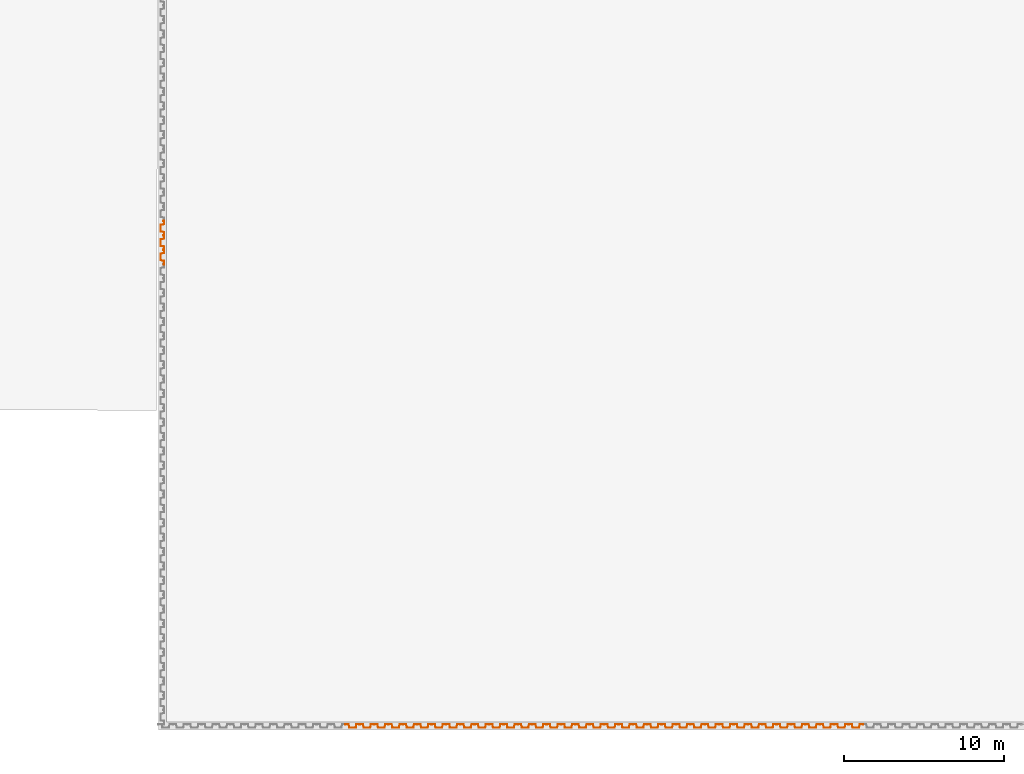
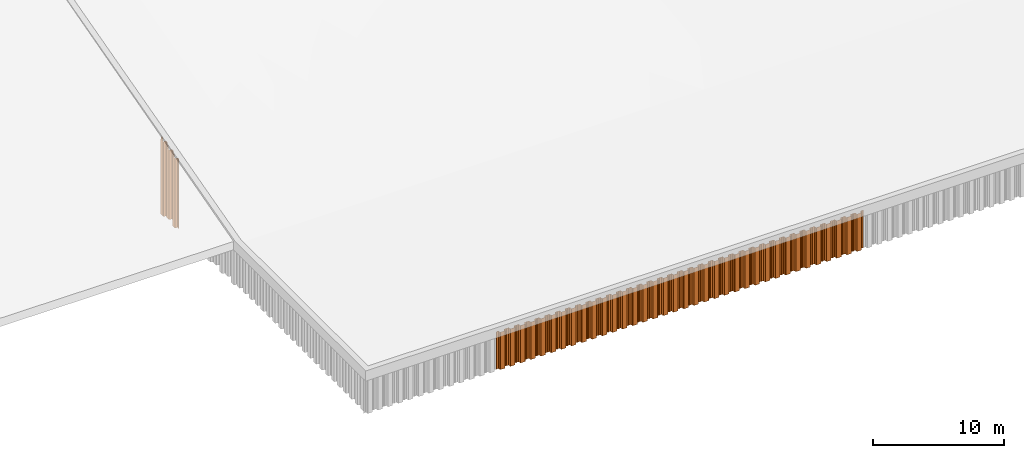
# One storey, part 6 of 32: 39 proxies.
"""IFC2X3 building model written with IfcOpenShell, lengths in millimetres."""

from ifc_helpers import new_model, entity, si_unit, converted_unit, derived_unit, direction, frame, frame_2d, origin, place, context, subcontext, project, spatial, polyline, circle_curve, parameter, trimmed, segment, composite_curve, outline, extrude, source, transform, mapped, type_object, type_shapes, element, save


model = new_model("IFC2X3")

# Units and contexts
model_context = context("Model", 3, precision=0.01, world=origin(), true_north=direction((6.12303176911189e-17, 1.0)))
body_context = subcontext(model_context, "Body", "Model", "MODEL_VIEW")
ifc_project = project(units=[si_unit("LENGTHUNIT", "METRE", prefix="MILLI"), si_unit("AREAUNIT", "SQUARE_METRE"), si_unit("VOLUMEUNIT", "CUBIC_METRE"), converted_unit("PLANEANGLEUNIT", "DEGREE", entity("IfcRatioMeasure", 0.0174532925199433), si_unit("PLANEANGLEUNIT", "RADIAN"), dimensions=[0, 0, 0, 0, 0, 0, 0]), si_unit("MASSUNIT", "GRAM", prefix="KILO"), derived_unit("MASSDENSITYUNIT", [(si_unit("MASSUNIT", "GRAM", prefix="KILO"), 1), (si_unit("LENGTHUNIT", "METRE"), -3)]), si_unit("TIMEUNIT", "SECOND"), si_unit("FREQUENCYUNIT", "HERTZ"), si_unit("THERMODYNAMICTEMPERATUREUNIT", "DEGREE_CELSIUS"), derived_unit("THERMALTRANSMITTANCEUNIT", [(si_unit("MASSUNIT", "GRAM", prefix="KILO"), 1), (si_unit("THERMODYNAMICTEMPERATUREUNIT", "KELVIN"), -1), (si_unit("TIMEUNIT", "SECOND"), -3)]), derived_unit("VOLUMETRICFLOWRATEUNIT", [(si_unit("LENGTHUNIT", "METRE"), 3), (si_unit("TIMEUNIT", "SECOND"), -1)]), si_unit("ELECTRICCURRENTUNIT", "AMPERE"), si_unit("ELECTRICVOLTAGEUNIT", "VOLT"), si_unit("POWERUNIT", "WATT"), si_unit("FORCEUNIT", "NEWTON", prefix="KILO"), si_unit("ILLUMINANCEUNIT", "LUX"), si_unit("LUMINOUSFLUXUNIT", "LUMEN"), si_unit("LUMINOUSINTENSITYUNIT", "CANDELA"), derived_unit("USERDEFINED", [(si_unit("MASSUNIT", "GRAM", prefix="KILO"), -1), (si_unit("LENGTHUNIT", "METRE"), -2), (si_unit("TIMEUNIT", "SECOND"), 3), (si_unit("LUMINOUSFLUXUNIT", "LUMEN"), 1)]), derived_unit("LINEARVELOCITYUNIT", [(si_unit("LENGTHUNIT", "METRE"), 1), (si_unit("TIMEUNIT", "SECOND"), -1)]), si_unit("PRESSUREUNIT", "PASCAL"), derived_unit("USERDEFINED", [(si_unit("LENGTHUNIT", "METRE"), -2), (si_unit("MASSUNIT", "GRAM", prefix="KILO"), 1), (si_unit("TIMEUNIT", "SECOND"), -2)])], contexts=[model_context])

# Site, building, storey
site_placement = place(None, origin())
site = spatial("IfcSite", under=ifc_project, at=site_placement, Name="Default", CompositionType="ELEMENT")
building_placement = place(site_placement, origin())
building = spatial("IfcBuilding", under=site, at=building_placement, CompositionType="ELEMENT")
storey_placement = place(building_placement, origin())
storey = spatial("IfcBuildingStorey", under=building, at=storey_placement, Name="矢板", CompositionType="ELEMENT", Elevation=0.0)

# Proxies
building_element_proxy_type_1 = type_object("IfcBuildingElementProxyType", Name="鋼矢板10H型", PredefinedType="NOTDEFINED")
shared_shape_1 = source(origin(), body_context, "Body", "SweptSolid", [
    extrude(outline(composite_curve([segment(trimmed(circle_curve(frame_2d((85.3662976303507, 306.644432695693), x_axis=(0.422618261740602, 0.906307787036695)), 13.885714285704), [parameter(24.9999999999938)], [parameter(90.0000000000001)], True, "PARAMETER"), True, "CONTINUOUS"), segment(polyline([(72.7815666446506, 312.512789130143), (9.8129512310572, 177.476157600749)]), True, "CONTINUOUS"), segment(trimmed(circle_curve(frame_2d((29.3891994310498, 168.347603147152), x_axis=(0.422618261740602, 0.906307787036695)), 21.6), [parameter(90.0000000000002)], [parameter(168.69006752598)], True, "PARAMETER"), True, "CONTINUOUS"), segment(polyline([(16.598697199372, 150.941769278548), (175.329723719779, 34.2998683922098)]), True, "CONTINUOUS"), segment(trimmed(circle_curve(frame_2d((168.93447260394, 25.596951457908), x_axis=(0.422618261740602, 0.906307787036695)), 10.7999999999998), [parameter(270.0)], [parameter(348.690067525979)], True, "PARAMETER"), False, "CONTINUOUS"), segment(polyline([(178.722596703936, 21.0326742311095), (18.2974003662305, -323.000269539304)]), True, "CONTINUOUS"), segment(trimmed(circle_curve(frame_2d((8.50927626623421, -318.435992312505), x_axis=(0.422618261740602, 0.906307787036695)), 10.8), [parameter(191.30993247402)], [parameter(269.999999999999)], True, "PARAMETER"), False, "CONTINUOUS"), segment(polyline([(5.95324328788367, -328.929166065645), (-185.429973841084, -282.310113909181)]), True, "CONTINUOUS"), segment(trimmed(circle_curve(frame_2d((-190.542039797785, -303.296461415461), x_axis=(0.422618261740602, 0.906307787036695)), 21.6000000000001), [parameter(11.3099324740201)], [parameter(90.0000000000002)], True, "PARAMETER"), True, "CONTINUOUS"), segment(polyline([(-210.118287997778, -294.167906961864), (-290.330886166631, -466.184378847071)]), True, "CONTINUOUS"), segment(trimmed(circle_curve(frame_2d((-270.754637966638, -475.312933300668), x_axis=(0.422618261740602, 0.906307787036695)), 21.6), [parameter(90.0000000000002)], [parameter(269.999999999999)], True, "PARAMETER"), True, "CONTINUOUS"), segment(polyline([(-251.178389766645, -484.441487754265), (-249.065298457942, -479.909948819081)]), True, "CONTINUOUS"), segment(polyline([(-249.065298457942, -479.909948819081), (-258.853422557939, -475.345671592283)]), True, "CONTINUOUS"), segment(polyline([(-258.853422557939, -475.345671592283), (-260.966513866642, -479.877210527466)]), True, "CONTINUOUS"), segment(trimmed(circle_curve(frame_2d((-270.754637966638, -475.312933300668), x_axis=(0.422618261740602, 0.906307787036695)), 10.8), [parameter(90.0000000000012)], [parameter(270.0)], True, "PARAMETER"), False, "CONTINUOUS"), segment(polyline([(-280.542762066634, -470.748656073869), (-200.330163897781, -298.732184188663)]), True, "CONTINUOUS"), segment(trimmed(circle_curve(frame_2d((-190.542039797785, -303.296461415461), x_axis=(0.422618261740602, 0.906307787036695)), 10.8), [parameter(11.3099324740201)], [parameter(89.9999999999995)], True, "PARAMETER"), False, "CONTINUOUS"), segment(polyline([(-187.986006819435, -292.803287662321), (3.39721030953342, -339.422339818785)]), True, "CONTINUOUS"), segment(trimmed(circle_curve(frame_2d((8.50927626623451, -318.435992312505), x_axis=(0.422618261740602, 0.906307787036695)), 21.6), [parameter(191.30993247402)], [parameter(270.0)], True, "PARAMETER"), True, "CONTINUOUS"), segment(polyline([(28.0855244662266, -327.564546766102), (188.510720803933, 16.4683970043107)]), True, "CONTINUOUS"), segment(trimmed(circle_curve(frame_2d((168.93447260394, 25.5969514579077), x_axis=(0.422618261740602, 0.906307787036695)), 21.6), [parameter(270.0)], [parameter(348.69006752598)], True, "PARAMETER"), True, "CONTINUOUS"), segment(polyline([(181.724974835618, 43.0027853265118), (22.9939483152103, 159.644686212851)]), True, "CONTINUOUS"), segment(trimmed(circle_curve(frame_2d((29.3891994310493, 168.347603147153), x_axis=(0.422618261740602, 0.906307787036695)), 10.7999999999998), [parameter(89.9999999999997)], [parameter(168.690067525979)], True, "PARAMETER"), False, "CONTINUOUS"), segment(polyline([(19.6010753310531, 172.911880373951), (82.5696907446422, 307.948511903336)]), True, "CONTINUOUS"), segment(trimmed(circle_curve(frame_2d((85.3662976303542, 306.64443269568), x_axis=(0.422618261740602, 0.906307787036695)), 3.08571428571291), [parameter(25.0000000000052)], [parameter(90.0000000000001)], True, "PARAMETER"), False, "CONTINUOUS"), segment(polyline([(85.3662976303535, 309.730146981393), (122.220231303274, 309.730146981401)]), True, "CONTINUOUS"), segment(trimmed(circle_curve(frame_2d((122.220231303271, 323.615861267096), x_axis=(0.422618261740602, 0.906307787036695)), 13.8857142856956), [parameter(205.000000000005)], [parameter(270.0)], True, "PARAMETER"), True, "CONTINUOUS"), segment(polyline([(134.804962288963, 317.747504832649), (141.079261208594, 331.202782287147)]), True, "CONTINUOUS"), segment(trimmed(circle_curve(frame_2d((121.503013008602, 340.331336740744), x_axis=(0.422618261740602, 0.906307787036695)), 21.6), [parameter(270.0)], [parameter(90.0000000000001)], True, "PARAMETER"), True, "CONTINUOUS"), segment(polyline([(101.926764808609, 349.459891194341), (99.8136734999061, 344.928352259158)]), True, "CONTINUOUS"), segment(polyline([(99.8136734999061, 344.928352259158), (109.601797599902, 340.364075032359)]), True, "CONTINUOUS"), segment(polyline([(109.601797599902, 340.364075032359), (111.714888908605, 344.895613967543)]), True, "CONTINUOUS"), segment(trimmed(circle_curve(frame_2d((121.503013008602, 340.331336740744), x_axis=(0.422618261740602, 0.906307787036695)), 10.8), [parameter(270.0)], [parameter(89.9999999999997)], True, "PARAMETER"), False, "CONTINUOUS"), segment(polyline([(131.291137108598, 335.767059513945), (125.01683818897, 322.311782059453)]), True, "CONTINUOUS"), segment(trimmed(circle_curve(frame_2d((122.220231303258, 323.615861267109), x_axis=(0.422618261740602, 0.906307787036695)), 3.08571428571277), [parameter(204.999999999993)], [parameter(270.0)], True, "PARAMETER"), False, "CONTINUOUS"), segment(polyline([(122.220231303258, 320.530146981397), (85.3662976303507, 320.530146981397)]), True, "CONTINUOUS")], self_intersect=False)), frame((95.205667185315, -48.8888888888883, -3500.0), z_axis=(0.0, 0.0, -1.0), x_axis=(0.4226182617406, 0.906307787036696, 0.0)), (0.0, 0.0, -1.0), 3500.0),
])
type_shapes(building_element_proxy_type_1, [shared_shape_1])
for number, where, z_axis, x_axis in (
    (1, (-84797.5000000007, -52500.0, 5850.0), (0.0, 0.0, 1.0), (-1.0, 0.0, 0.0)),
    (2, (-85697.5000000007, -52500.0, 5850.0), (0.0, 0.0, 1.0), (-1.0, 0.0, 0.0)),
    (3, (-86597.5000000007, -52500.0, 5850.0), (0.0, 0.0, 1.0), (-1.0, 0.0, 0.0)),
    (4, (-87497.5000000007, -52500.0, 5850.0), (0.0, 0.0, 1.0), (-1.0, 0.0, 0.0)),
    (5, (-88397.5000000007, -52500.0, 5850.0), (0.0, 0.0, 1.0), (-1.0, 0.0, 0.0)),
    (6, (-89297.5000000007, -52500.0, 5850.0), (0.0, 0.0, 1.0), (-1.0, 0.0, 0.0)),
    (7, (-90197.5000000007, -52500.0, 5850.0), (0.0, 0.0, 1.0), (-1.0, 0.0, 0.0)),
    (8, (-91097.5000000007, -52500.0, 5850.0), (0.0, 0.0, 1.0), (-1.0, 0.0, 0.0)),
    (9, (-91997.5000000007, -52500.0, 5850.0), (0.0, 0.0, 1.0), (-1.0, 0.0, 0.0)),
    (10, (-92897.5000000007, -52500.0, 5850.0), (0.0, 0.0, 1.0), (-1.0, 0.0, 0.0)),
    (11, (-93797.5000000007, -52500.0, 5850.0), (0.0, 0.0, 1.0), (-1.0, 0.0, 0.0)),
    (12, (-94697.5000000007, -52500.0, 5850.0), (0.0, 0.0, 1.0), (-1.0, 0.0, 0.0)),
    (13, (-95597.5000000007, -52500.0, 5850.0), (0.0, 0.0, 1.0), (-1.0, 0.0, 0.0)),
    (14, (-96497.5000000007, -52500.0, 5850.0), (0.0, 0.0, 1.0), (-1.0, 0.0, 0.0)),
    (15, (-97397.5000000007, -52500.0, 5850.0), (0.0, 0.0, 1.0), (-1.0, 0.0, 0.0)),
    (16, (-98297.5000000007, -52500.0, 5850.0), (0.0, 0.0, 1.0), (-1.0, 0.0, 0.0)),
    (17, (-99197.5000000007, -52500.0, 5850.0), (0.0, 0.0, 1.0), (-1.0, 0.0, 0.0)),
    (18, (-100097.500000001, -52500.0, 5850.0), (0.0, 0.0, 1.0), (-1.0, 0.0, 0.0)),
    (19, (-100997.500000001, -52500.0, 5850.0), (0.0, 0.0, 1.0), (-1.0, 0.0, 0.0)),
    (20, (-101897.500000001, -52500.0, 5850.0), (0.0, 0.0, 1.0), (-1.0, 0.0, 0.0)),
    (21, (-102797.500000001, -52500.0, 5850.0), (0.0, 0.0, 1.0), (-1.0, 0.0, 0.0)),
    (22, (-103697.500000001, -52500.0, 5850.0), (0.0, 0.0, 1.0), (-1.0, 0.0, 0.0)),
    (23, (-104597.500000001, -52500.0, 5850.0), (0.0, 0.0, 1.0), (-1.0, 0.0, 0.0)),
    (24, (-105497.500000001, -52500.0, 5850.0), (0.0, 0.0, 1.0), (-1.0, 0.0, 0.0)),
    (25, (-106397.500000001, -52500.0, 5850.0), (0.0, 0.0, 1.0), (-1.0, 0.0, 0.0)),
    (26, (-107297.500000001, -52500.0, 5850.0), (0.0, 0.0, 1.0), (-1.0, 0.0, 0.0)),
    (27, (-108197.500000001, -52500.0, 5850.0), (0.0, 0.0, 1.0), (-1.0, 0.0, 0.0)),
    (28, (-109097.500000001, -52500.0, 5850.0), (0.0, 0.0, 1.0), (-1.0, 0.0, 0.0)),
    (29, (-109997.500000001, -52500.0, 5850.0), (0.0, 0.0, 1.0), (-1.0, 0.0, 0.0)),
    (30, (-110897.500000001, -52500.0, 5850.0), (0.0, 0.0, 1.0), (-1.0, 0.0, 0.0)),
    (31, (-111797.500000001, -52500.0, 5850.0), (0.0, 0.0, 1.0), (-1.0, 0.0, 0.0)),
    (32, (-112697.500000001, -52500.0, 5850.0), (0.0, 0.0, 1.0), (-1.0, 0.0, 0.0)),
    (33, (-113597.500000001, -52500.0, 5850.0), (0.0, 0.0, 1.0), (-1.0, 0.0, 0.0)),
    (34, (-114497.500000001, -52500.0, 5850.0), (0.0, 0.0, 1.0), (-1.0, 0.0, 0.0)),
    (35, (-115397.500000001, -52500.0, 5850.0), (0.0, 0.0, 1.0), (-1.0, 0.0, 0.0)),
    (36, (-116297.500000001, -52500.0, 5850.0), (0.0, 0.0, 1.0), (-1.0, 0.0, 0.0)),
):
    element("IfcBuildingElementProxy", number, at=place(storey_placement, frame(where, z_axis=z_axis, x_axis=x_axis)), inside=storey, type_object=building_element_proxy_type_1, Name="鋼矢板10H型:鋼矢板10H型", ObjectType="鋼矢板10H型:鋼矢板10H型", context=body_context, shape_type="MappedRepresentation", body=[
        mapped(shared_shape_1, transform((0.0, 0.0, 0.0), scale=1.0)),
    ])
building_element_proxy_type_2 = type_object("IfcBuildingElementProxyType", Name="鋼矢板10H型", PredefinedType="NOTDEFINED")
shared_shape_2 = source(origin(), body_context, "Body", "SweptSolid", [
    extrude(outline(composite_curve([segment(trimmed(circle_curve(frame_2d((85.3662976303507, 306.644432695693), x_axis=(0.422618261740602, 0.906307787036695)), 13.885714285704), [parameter(24.9999999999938)], [parameter(90.0000000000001)], True, "PARAMETER"), True, "CONTINUOUS"), segment(polyline([(72.7815666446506, 312.512789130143), (9.8129512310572, 177.476157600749)]), True, "CONTINUOUS"), segment(trimmed(circle_curve(frame_2d((29.3891994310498, 168.347603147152), x_axis=(0.422618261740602, 0.906307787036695)), 21.6), [parameter(90.0000000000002)], [parameter(168.69006752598)], True, "PARAMETER"), True, "CONTINUOUS"), segment(polyline([(16.598697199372, 150.941769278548), (175.329723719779, 34.2998683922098)]), True, "CONTINUOUS"), segment(trimmed(circle_curve(frame_2d((168.93447260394, 25.596951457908), x_axis=(0.422618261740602, 0.906307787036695)), 10.7999999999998), [parameter(270.0)], [parameter(348.690067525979)], True, "PARAMETER"), False, "CONTINUOUS"), segment(polyline([(178.722596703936, 21.0326742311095), (18.2974003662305, -323.000269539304)]), True, "CONTINUOUS"), segment(trimmed(circle_curve(frame_2d((8.50927626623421, -318.435992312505), x_axis=(0.422618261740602, 0.906307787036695)), 10.8), [parameter(191.30993247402)], [parameter(269.999999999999)], True, "PARAMETER"), False, "CONTINUOUS"), segment(polyline([(5.95324328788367, -328.929166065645), (-185.429973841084, -282.310113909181)]), True, "CONTINUOUS"), segment(trimmed(circle_curve(frame_2d((-190.542039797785, -303.296461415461), x_axis=(0.422618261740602, 0.906307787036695)), 21.6000000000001), [parameter(11.3099324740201)], [parameter(90.0000000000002)], True, "PARAMETER"), True, "CONTINUOUS"), segment(polyline([(-210.118287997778, -294.167906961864), (-290.330886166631, -466.184378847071)]), True, "CONTINUOUS"), segment(trimmed(circle_curve(frame_2d((-270.754637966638, -475.312933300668), x_axis=(0.422618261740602, 0.906307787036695)), 21.6), [parameter(90.0000000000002)], [parameter(269.999999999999)], True, "PARAMETER"), True, "CONTINUOUS"), segment(polyline([(-251.178389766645, -484.441487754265), (-249.065298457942, -479.909948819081)]), True, "CONTINUOUS"), segment(polyline([(-249.065298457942, -479.909948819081), (-258.853422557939, -475.345671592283)]), True, "CONTINUOUS"), segment(polyline([(-258.853422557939, -475.345671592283), (-260.966513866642, -479.877210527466)]), True, "CONTINUOUS"), segment(trimmed(circle_curve(frame_2d((-270.754637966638, -475.312933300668), x_axis=(0.422618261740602, 0.906307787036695)), 10.8), [parameter(90.0000000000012)], [parameter(270.0)], True, "PARAMETER"), False, "CONTINUOUS"), segment(polyline([(-280.542762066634, -470.748656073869), (-200.330163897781, -298.732184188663)]), True, "CONTINUOUS"), segment(trimmed(circle_curve(frame_2d((-190.542039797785, -303.296461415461), x_axis=(0.422618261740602, 0.906307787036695)), 10.8), [parameter(11.3099324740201)], [parameter(89.9999999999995)], True, "PARAMETER"), False, "CONTINUOUS"), segment(polyline([(-187.986006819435, -292.803287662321), (3.39721030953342, -339.422339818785)]), True, "CONTINUOUS"), segment(trimmed(circle_curve(frame_2d((8.50927626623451, -318.435992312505), x_axis=(0.422618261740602, 0.906307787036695)), 21.6), [parameter(191.30993247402)], [parameter(270.0)], True, "PARAMETER"), True, "CONTINUOUS"), segment(polyline([(28.0855244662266, -327.564546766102), (188.510720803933, 16.4683970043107)]), True, "CONTINUOUS"), segment(trimmed(circle_curve(frame_2d((168.93447260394, 25.5969514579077), x_axis=(0.422618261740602, 0.906307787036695)), 21.6), [parameter(270.0)], [parameter(348.69006752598)], True, "PARAMETER"), True, "CONTINUOUS"), segment(polyline([(181.724974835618, 43.0027853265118), (22.9939483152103, 159.644686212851)]), True, "CONTINUOUS"), segment(trimmed(circle_curve(frame_2d((29.3891994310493, 168.347603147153), x_axis=(0.422618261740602, 0.906307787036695)), 10.7999999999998), [parameter(89.9999999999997)], [parameter(168.690067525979)], True, "PARAMETER"), False, "CONTINUOUS"), segment(polyline([(19.6010753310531, 172.911880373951), (82.5696907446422, 307.948511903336)]), True, "CONTINUOUS"), segment(trimmed(circle_curve(frame_2d((85.3662976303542, 306.64443269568), x_axis=(0.422618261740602, 0.906307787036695)), 3.08571428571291), [parameter(25.0000000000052)], [parameter(90.0000000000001)], True, "PARAMETER"), False, "CONTINUOUS"), segment(polyline([(85.3662976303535, 309.730146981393), (122.220231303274, 309.730146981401)]), True, "CONTINUOUS"), segment(trimmed(circle_curve(frame_2d((122.220231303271, 323.615861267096), x_axis=(0.422618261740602, 0.906307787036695)), 13.8857142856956), [parameter(205.000000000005)], [parameter(270.0)], True, "PARAMETER"), True, "CONTINUOUS"), segment(polyline([(134.804962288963, 317.747504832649), (141.079261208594, 331.202782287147)]), True, "CONTINUOUS"), segment(trimmed(circle_curve(frame_2d((121.503013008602, 340.331336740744), x_axis=(0.422618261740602, 0.906307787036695)), 21.6), [parameter(270.0)], [parameter(90.0000000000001)], True, "PARAMETER"), True, "CONTINUOUS"), segment(polyline([(101.926764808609, 349.459891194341), (99.8136734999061, 344.928352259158)]), True, "CONTINUOUS"), segment(polyline([(99.8136734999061, 344.928352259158), (109.601797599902, 340.364075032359)]), True, "CONTINUOUS"), segment(polyline([(109.601797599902, 340.364075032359), (111.714888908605, 344.895613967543)]), True, "CONTINUOUS"), segment(trimmed(circle_curve(frame_2d((121.503013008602, 340.331336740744), x_axis=(0.422618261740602, 0.906307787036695)), 10.8), [parameter(270.0)], [parameter(89.9999999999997)], True, "PARAMETER"), False, "CONTINUOUS"), segment(polyline([(131.291137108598, 335.767059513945), (125.01683818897, 322.311782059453)]), True, "CONTINUOUS"), segment(trimmed(circle_curve(frame_2d((122.220231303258, 323.615861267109), x_axis=(0.422618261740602, 0.906307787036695)), 3.08571428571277), [parameter(204.999999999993)], [parameter(270.0)], True, "PARAMETER"), False, "CONTINUOUS"), segment(polyline([(122.220231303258, 320.530146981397), (85.3662976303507, 320.530146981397)]), True, "CONTINUOUS")], self_intersect=False)), frame((95.205667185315, -48.8888888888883, -6500.0), z_axis=(0.0, 0.0, -1.0), x_axis=(0.4226182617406, 0.906307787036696, 0.0)), (0.0, 0.0, -1.0), 6500.0),
])
type_shapes(building_element_proxy_type_2, [shared_shape_2])
for number, where, z_axis, x_axis in (
    (37, (-128208.0, -22249.0, 8709.0), (0.0, 0.0, 1.0), (0.0, 1.0, 0.0)),
    (38, (-128208.0, -23149.0, 8471.0), (0.0, 0.0, 1.0), (0.0, 1.0, 0.0)),
):
    element("IfcBuildingElementProxy", number, at=place(storey_placement, frame(where, z_axis=z_axis, x_axis=x_axis)), inside=storey, type_object=building_element_proxy_type_2, Name="鋼矢板10H型:鋼矢板10H型", ObjectType="鋼矢板10H型:鋼矢板10H型", context=body_context, shape_type="MappedRepresentation", body=[
        mapped(shared_shape_2, transform((0.0, 0.0, 0.0), scale=1.0)),
    ])
building_element_proxy_type_3 = type_object("IfcBuildingElementProxyType", Name="鋼矢板10H型", PredefinedType="NOTDEFINED")
shared_shape_3 = source(origin(), body_context, "Body", "SweptSolid", [
    extrude(outline(composite_curve([segment(trimmed(circle_curve(frame_2d((85.3662976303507, 306.644432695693), x_axis=(0.422618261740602, 0.906307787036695)), 13.885714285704), [parameter(24.9999999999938)], [parameter(90.0000000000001)], True, "PARAMETER"), True, "CONTINUOUS"), segment(polyline([(72.7815666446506, 312.512789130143), (9.8129512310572, 177.476157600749)]), True, "CONTINUOUS"), segment(trimmed(circle_curve(frame_2d((29.3891994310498, 168.347603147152), x_axis=(0.422618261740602, 0.906307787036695)), 21.6), [parameter(90.0000000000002)], [parameter(168.69006752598)], True, "PARAMETER"), True, "CONTINUOUS"), segment(polyline([(16.598697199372, 150.941769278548), (175.329723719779, 34.2998683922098)]), True, "CONTINUOUS"), segment(trimmed(circle_curve(frame_2d((168.93447260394, 25.596951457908), x_axis=(0.422618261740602, 0.906307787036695)), 10.7999999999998), [parameter(270.0)], [parameter(348.690067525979)], True, "PARAMETER"), False, "CONTINUOUS"), segment(polyline([(178.722596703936, 21.0326742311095), (18.2974003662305, -323.000269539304)]), True, "CONTINUOUS"), segment(trimmed(circle_curve(frame_2d((8.50927626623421, -318.435992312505), x_axis=(0.422618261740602, 0.906307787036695)), 10.8), [parameter(191.30993247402)], [parameter(269.999999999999)], True, "PARAMETER"), False, "CONTINUOUS"), segment(polyline([(5.95324328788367, -328.929166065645), (-185.429973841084, -282.310113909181)]), True, "CONTINUOUS"), segment(trimmed(circle_curve(frame_2d((-190.542039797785, -303.296461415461), x_axis=(0.422618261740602, 0.906307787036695)), 21.6000000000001), [parameter(11.3099324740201)], [parameter(90.0000000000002)], True, "PARAMETER"), True, "CONTINUOUS"), segment(polyline([(-210.118287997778, -294.167906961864), (-290.330886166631, -466.184378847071)]), True, "CONTINUOUS"), segment(trimmed(circle_curve(frame_2d((-270.754637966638, -475.312933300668), x_axis=(0.422618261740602, 0.906307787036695)), 21.6), [parameter(90.0000000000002)], [parameter(269.999999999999)], True, "PARAMETER"), True, "CONTINUOUS"), segment(polyline([(-251.178389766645, -484.441487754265), (-249.065298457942, -479.909948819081)]), True, "CONTINUOUS"), segment(polyline([(-249.065298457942, -479.909948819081), (-258.853422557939, -475.345671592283)]), True, "CONTINUOUS"), segment(polyline([(-258.853422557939, -475.345671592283), (-260.966513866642, -479.877210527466)]), True, "CONTINUOUS"), segment(trimmed(circle_curve(frame_2d((-270.754637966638, -475.312933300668), x_axis=(0.422618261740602, 0.906307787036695)), 10.8), [parameter(90.0000000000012)], [parameter(270.0)], True, "PARAMETER"), False, "CONTINUOUS"), segment(polyline([(-280.542762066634, -470.748656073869), (-200.330163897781, -298.732184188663)]), True, "CONTINUOUS"), segment(trimmed(circle_curve(frame_2d((-190.542039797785, -303.296461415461), x_axis=(0.422618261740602, 0.906307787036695)), 10.8), [parameter(11.3099324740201)], [parameter(89.9999999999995)], True, "PARAMETER"), False, "CONTINUOUS"), segment(polyline([(-187.986006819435, -292.803287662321), (3.39721030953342, -339.422339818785)]), True, "CONTINUOUS"), segment(trimmed(circle_curve(frame_2d((8.50927626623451, -318.435992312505), x_axis=(0.422618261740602, 0.906307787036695)), 21.6), [parameter(191.30993247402)], [parameter(270.0)], True, "PARAMETER"), True, "CONTINUOUS"), segment(polyline([(28.0855244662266, -327.564546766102), (188.510720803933, 16.4683970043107)]), True, "CONTINUOUS"), segment(trimmed(circle_curve(frame_2d((168.93447260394, 25.5969514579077), x_axis=(0.422618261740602, 0.906307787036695)), 21.6), [parameter(270.0)], [parameter(348.69006752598)], True, "PARAMETER"), True, "CONTINUOUS"), segment(polyline([(181.724974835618, 43.0027853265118), (22.9939483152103, 159.644686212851)]), True, "CONTINUOUS"), segment(trimmed(circle_curve(frame_2d((29.3891994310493, 168.347603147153), x_axis=(0.422618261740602, 0.906307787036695)), 10.7999999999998), [parameter(89.9999999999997)], [parameter(168.690067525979)], True, "PARAMETER"), False, "CONTINUOUS"), segment(polyline([(19.6010753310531, 172.911880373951), (82.5696907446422, 307.948511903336)]), True, "CONTINUOUS"), segment(trimmed(circle_curve(frame_2d((85.3662976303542, 306.64443269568), x_axis=(0.422618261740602, 0.906307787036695)), 3.08571428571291), [parameter(25.0000000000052)], [parameter(90.0000000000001)], True, "PARAMETER"), False, "CONTINUOUS"), segment(polyline([(85.3662976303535, 309.730146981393), (122.220231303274, 309.730146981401)]), True, "CONTINUOUS"), segment(trimmed(circle_curve(frame_2d((122.220231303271, 323.615861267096), x_axis=(0.422618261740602, 0.906307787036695)), 13.8857142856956), [parameter(205.000000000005)], [parameter(270.0)], True, "PARAMETER"), True, "CONTINUOUS"), segment(polyline([(134.804962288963, 317.747504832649), (141.079261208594, 331.202782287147)]), True, "CONTINUOUS"), segment(trimmed(circle_curve(frame_2d((121.503013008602, 340.331336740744), x_axis=(0.422618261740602, 0.906307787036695)), 21.6), [parameter(270.0)], [parameter(90.0000000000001)], True, "PARAMETER"), True, "CONTINUOUS"), segment(polyline([(101.926764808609, 349.459891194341), (99.8136734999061, 344.928352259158)]), True, "CONTINUOUS"), segment(polyline([(99.8136734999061, 344.928352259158), (109.601797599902, 340.364075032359)]), True, "CONTINUOUS"), segment(polyline([(109.601797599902, 340.364075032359), (111.714888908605, 344.895613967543)]), True, "CONTINUOUS"), segment(trimmed(circle_curve(frame_2d((121.503013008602, 340.331336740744), x_axis=(0.422618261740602, 0.906307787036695)), 10.8), [parameter(270.0)], [parameter(89.9999999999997)], True, "PARAMETER"), False, "CONTINUOUS"), segment(polyline([(131.291137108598, 335.767059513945), (125.01683818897, 322.311782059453)]), True, "CONTINUOUS"), segment(trimmed(circle_curve(frame_2d((122.220231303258, 323.615861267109), x_axis=(0.422618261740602, 0.906307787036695)), 3.08571428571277), [parameter(204.999999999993)], [parameter(270.0)], True, "PARAMETER"), False, "CONTINUOUS"), segment(polyline([(122.220231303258, 320.530146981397), (85.3662976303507, 320.530146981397)]), True, "CONTINUOUS")], self_intersect=False)), frame((95.205667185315, -48.8888888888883, -7000.0), z_axis=(0.0, 0.0, -1.0), x_axis=(0.4226182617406, 0.906307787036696, 0.0)), (0.0, 0.0, -1.0), 7000.0),
])
type_shapes(building_element_proxy_type_3, [shared_shape_3])
proxy_placement = place(storey_placement, frame((-128208.0, -21349.0, 8946.0), z_axis=(0.0, 0.0, 1.0), x_axis=(0.0, 1.0, 0.0)))
element("IfcBuildingElementProxy", 39, at=proxy_placement, inside=storey, type_object=building_element_proxy_type_3, Name="鋼矢板10H型:鋼矢板10H型", ObjectType="鋼矢板10H型:鋼矢板10H型", context=body_context, shape_type="MappedRepresentation", body=[
    mapped(shared_shape_3, transform((0.0, 0.0, 0.0), scale=1.0)),
])

save(model, "model.ifc")
